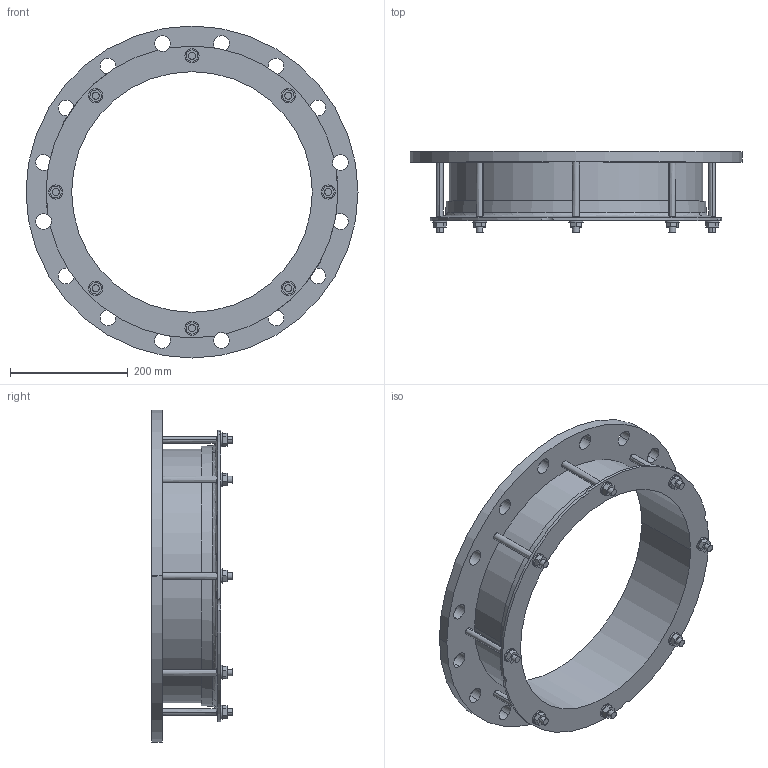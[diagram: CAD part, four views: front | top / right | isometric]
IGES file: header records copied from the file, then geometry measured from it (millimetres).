
Start section:  PTC IGES file: 406x400pn10_4not.igs
Global section: file name: 406x400pn10_4not.igs; native system: Creo Parametric by PTC Inc.; preprocessor: 2016130; author: mfairey; organization: Unknown; date: 20190116.101343; units: millimetre
Bounding box: 565 x 137.45 x 565 mm (x, y, z)
Surface area: 684590.6 mm2 (no closed solid volume)
Topology: 0 solids, 0 shells, 176 faces, 932 edges, 932 vertices
Faces by surface type: revolution 100, bspline 76
